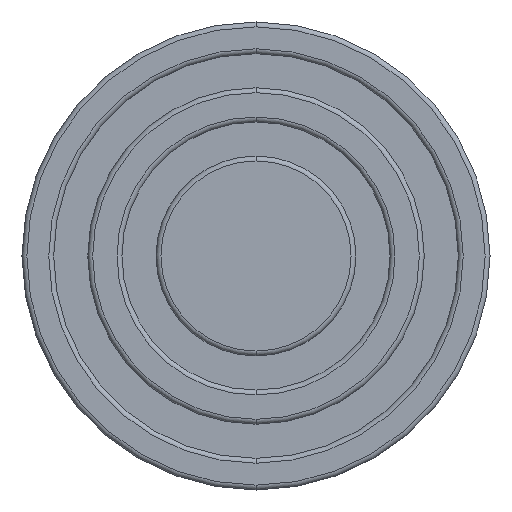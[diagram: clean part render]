
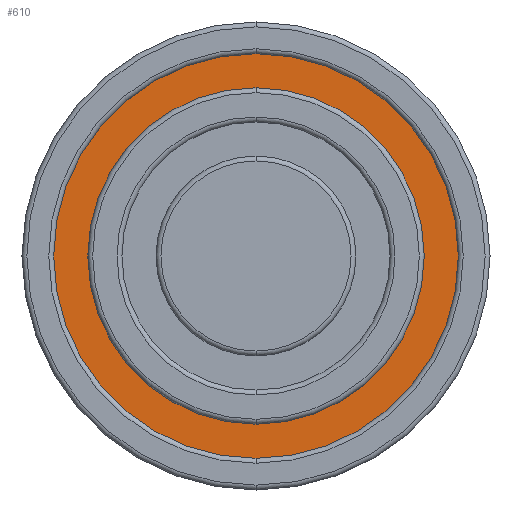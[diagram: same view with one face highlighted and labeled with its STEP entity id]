
A CAD part, front view. The second image highlights one B-rep face of the part: STEP entity #610.
In plain terms, the highlighted planar face has unit normal (0, -1, 0).
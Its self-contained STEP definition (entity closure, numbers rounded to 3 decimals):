
#34 = DIRECTION ( 'NONE',  ( 0., 0., -1. ) ) ;
#49 = EDGE_LOOP ( 'NONE', ( #1780, #3039 ) ) ;
#74 = FACE_OUTER_BOUND ( 'NONE', #49, .T. ) ;
#572 = CARTESIAN_POINT ( 'NONE',  ( 0., -7., 20.75 ) ) ;
#575 = CIRCLE ( 'NONE', #1587, 17.25 ) ;
#603 = EDGE_CURVE ( 'NONE', #2327, #4317, #2051, .T. ) ;
#610 = ADVANCED_FACE ( 'NONE', ( #1952, #74 ), #1874, .T. ) ;
#628 = DIRECTION ( 'NONE',  ( 0., 1., 0. ) ) ;
#767 = CARTESIAN_POINT ( 'NONE',  ( 0., -7., 0. ) ) ;
#798 = CARTESIAN_POINT ( 'NONE',  ( 0., -7., 0. ) ) ;
#805 = EDGE_LOOP ( 'NONE', ( #1323, #4504 ) ) ;
#950 = VERTEX_POINT ( 'NONE', #572 ) ;
#1146 = DIRECTION ( 'NONE',  ( 0., 0., 1. ) ) ;
#1161 = VERTEX_POINT ( 'NONE', #1447 ) ;
#1172 = DIRECTION ( 'NONE',  ( 0., 0., 1. ) ) ;
#1323 = ORIENTED_EDGE ( 'NONE', *, *, #1870, .T. ) ;
#1386 = CARTESIAN_POINT ( 'NONE',  ( 0., -7., 0. ) ) ;
#1447 = CARTESIAN_POINT ( 'NONE',  ( 0., -7., -20.75 ) ) ;
#1519 = CARTESIAN_POINT ( 'NONE',  ( -20.75, -7., 0. ) ) ;
#1587 = AXIS2_PLACEMENT_3D ( 'NONE', #1386, #4000, #1756 ) ;
#1756 = DIRECTION ( 'NONE',  ( 0., 0., 1. ) ) ;
#1780 = ORIENTED_EDGE ( 'NONE', *, *, #4608, .F. ) ;
#1841 = AXIS2_PLACEMENT_3D ( 'NONE', #767, #3384, #1146 ) ;
#1868 = EDGE_CURVE ( 'NONE', #1161, #950, #3561, .T. ) ;
#1870 = EDGE_CURVE ( 'NONE', #4317, #2327, #575, .T. ) ;
#1874 = PLANE ( 'NONE',  #3347 ) ;
#1952 = FACE_BOUND ( 'NONE', #805, .T. ) ;
#2051 = CIRCLE ( 'NONE', #1841, 17.25 ) ;
#2277 = DIRECTION ( 'NONE',  ( 0., -1., 0. ) ) ;
#2327 = VERTEX_POINT ( 'NONE', #3553 ) ;
#2475 = CIRCLE ( 'NONE', #3905, 20.75 ) ;
#2872 = CARTESIAN_POINT ( 'NONE',  ( 0., -7., 0. ) ) ;
#3039 = ORIENTED_EDGE ( 'NONE', *, *, #1868, .F. ) ;
#3254 = DIRECTION ( 'NONE',  ( 0., 0., 1. ) ) ;
#3347 = AXIS2_PLACEMENT_3D ( 'NONE', #1519, #2277, #34 ) ;
#3384 = DIRECTION ( 'NONE',  ( 0., 1., 0. ) ) ;
#3407 = DIRECTION ( 'NONE',  ( 0., 1., 0. ) ) ;
#3553 = CARTESIAN_POINT ( 'NONE',  ( 0., -7., -17.25 ) ) ;
#3561 = CIRCLE ( 'NONE', #4183, 20.75 ) ;
#3905 = AXIS2_PLACEMENT_3D ( 'NONE', #798, #3407, #1172 ) ;
#3990 = CARTESIAN_POINT ( 'NONE',  ( 0., -7., 17.25 ) ) ;
#4000 = DIRECTION ( 'NONE',  ( 0., 1., 0. ) ) ;
#4183 = AXIS2_PLACEMENT_3D ( 'NONE', #2872, #628, #3254 ) ;
#4317 = VERTEX_POINT ( 'NONE', #3990 ) ;
#4504 = ORIENTED_EDGE ( 'NONE', *, *, #603, .T. ) ;
#4608 = EDGE_CURVE ( 'NONE', #950, #1161, #2475, .T. ) ;
